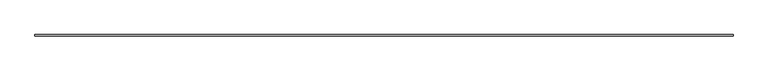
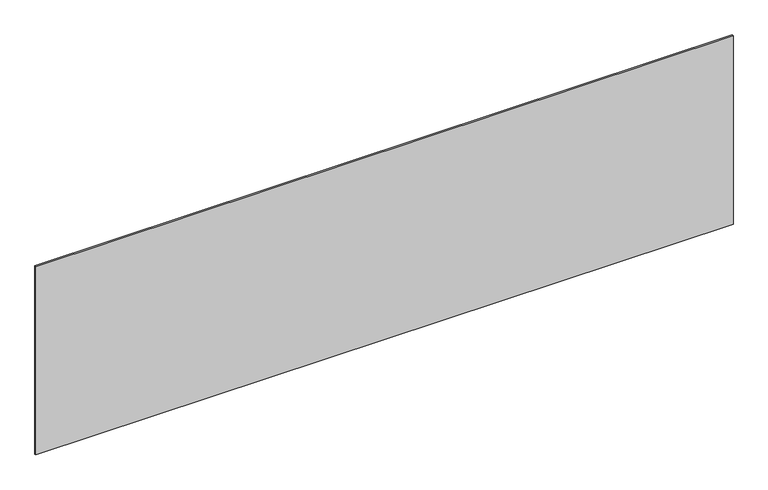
"""IFC4 building model written with IfcOpenShell, lengths in millimetres: plate geometry, システム パネル : 標準."""

from ifc_helpers import new_model, si_unit, origin, origin_with_axes, place, context, project, spatial, polyline, outline, extrude, source, transform, mapped, element, save


def plate_840d3f25(model_context):
    return source(origin(), model_context, "Body", "SweptSolid", [
        extrude(outline(polyline([(2264.1666667, -5.0), (-2264.1666667, -5.0), (-2264.1666667, 5.0), (2264.1666667, 5.0), (2264.1666667, -5.0)])), origin_with_axes(), (0.0, 0.0, 1.0), 1292.4387729),
    ])


if __name__ == "__main__":
    model = new_model("IFC4")
    model_context = context("Model", 3, world=origin())
    ifc_project = project(units=[si_unit("LENGTHUNIT", "METRE", prefix="MILLI")], contexts=[model_context])
    site = spatial("IfcSite", under=ifc_project)
    building = spatial("IfcBuilding", under=site)
    placement = place(None, origin())
    plate_shape = plate_840d3f25(model_context)
    element("IfcPlate", 1, ObjectType="システム パネル : 標準", at=placement, inside=building, context=model_context, shape_type="MappedRepresentation", body=[
        mapped(plate_shape, transform((0.0, 0.0, 0.0), x_axis=(1.0, 0.0, 0.0), y_axis=(0.0, 1.0, 0.0), z_axis=(0.0, 0.0, 1.0))),
    ])
    save(model, "model.ifc")
